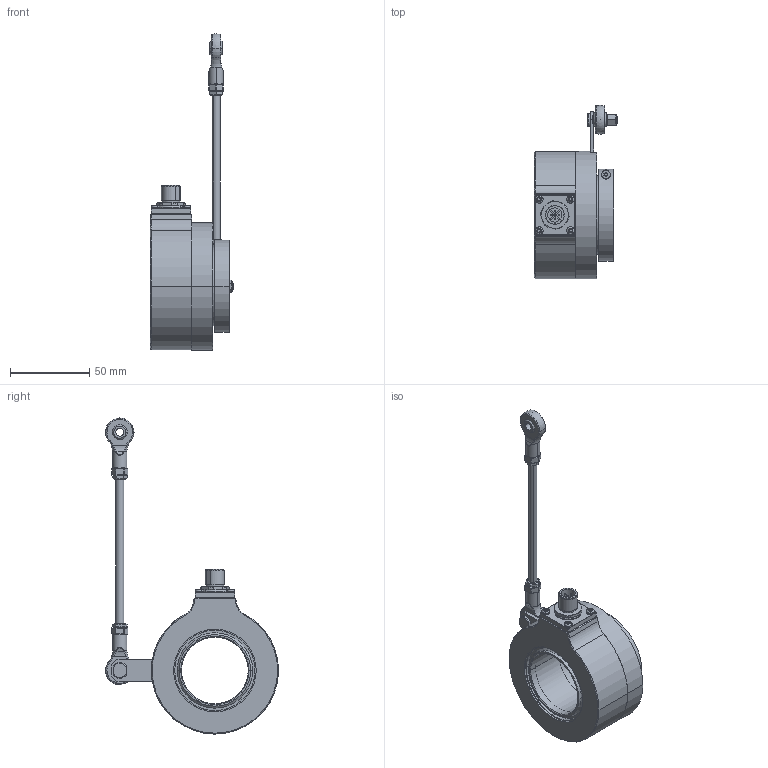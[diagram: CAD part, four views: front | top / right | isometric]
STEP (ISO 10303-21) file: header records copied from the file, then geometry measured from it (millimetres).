
FILE_DESCRIPTION (( 'STEP AP203' ), '1' );
FILE_NAME ('K80I.OXX.XXXXX.XH17842.6XRC6.step', '2025-12-09T08:50:56', ( '' ), ( '' ), 'SwSTEP 2.0', 'SolidWorks 2021', '' );
FILE_SCHEMA (( 'CONFIG_CONTROL_DESIGN' ));
Length unit declared in the file: millimetre
Products named in the file (1): K80I.OXX.XXXXX.XH17842.6XRC6
Bounding box: 52.6 x 108.97 x 199.07 mm (x, y, z)
Surface area: 65773.2 mm2 (no closed solid volume)
Topology: 0 solids, 20 shells, 732 faces, 1819 edges, 1126 vertices
Faces by surface type: plane 255, cylinder 244, cone 111, bspline 76, torus 32, sphere 14
Entity records: 24773 total; most frequent: CARTESIAN_POINT 7693, DIRECTION 3616, ORIENTED_EDGE 3546, EDGE_CURVE 1781, AXIS2_PLACEMENT_3D 1449, VERTEX_POINT 1122, EDGE_LOOP 799, CIRCLE 792
